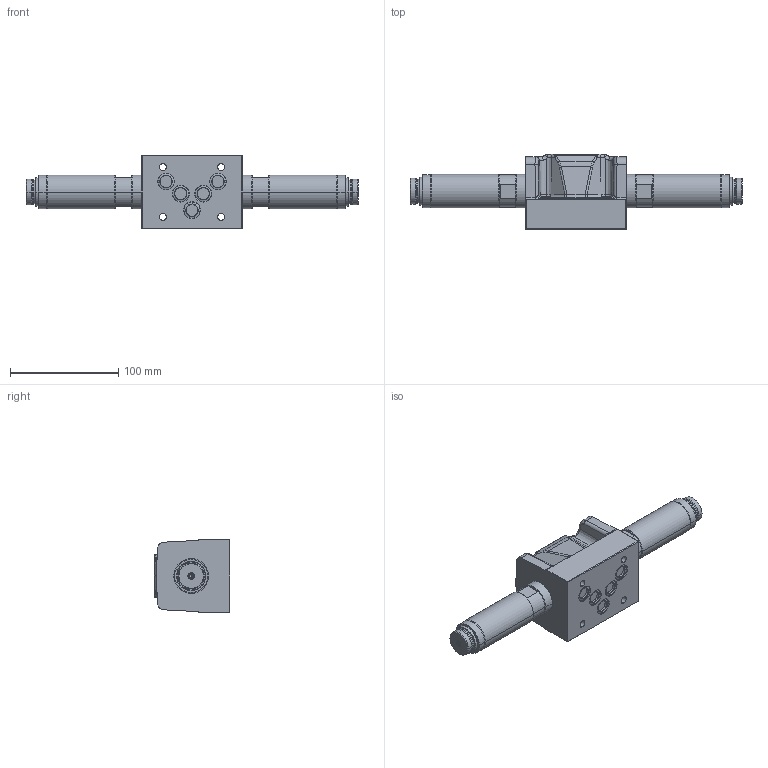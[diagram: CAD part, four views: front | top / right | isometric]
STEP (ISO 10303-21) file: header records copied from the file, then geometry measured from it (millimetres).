
FILE_DESCRIPTION (( 'STEP AP214' ), '1' );
FILE_NAME ('WDPFA10-4_3.STEP', '2015-10-07T05:43:04', ( '' ), ( '' ), 'SwSTEP 2.0', 'SolidWorks 2014', '' );
FILE_SCHEMA (( 'AUTOMOTIVE_DESIGN' ));
Length unit declared in the file: millimetre
Products named in the file (2): WDPFA10-4_3
Bounding box: 307 x 69.5 x 68 mm (x, y, z)
Volume: 504546.8 mm3; surface area: 60705.1 mm2
Topology: 1 solids, 1 shells, 1254 faces, 3149 edges, 1923 vertices
Faces by surface type: plane 743, cylinder 289, bspline 110, cone 69, torus 43
Entity records: 41326 total; most frequent: CARTESIAN_POINT 11905, ORIENTED_EDGE 6274, DIRECTION 6020, EDGE_CURVE 3137, AXIS2_PLACEMENT_3D 2039, VECTOR 1942, LINE 1942, VERTEX_POINT 1923
